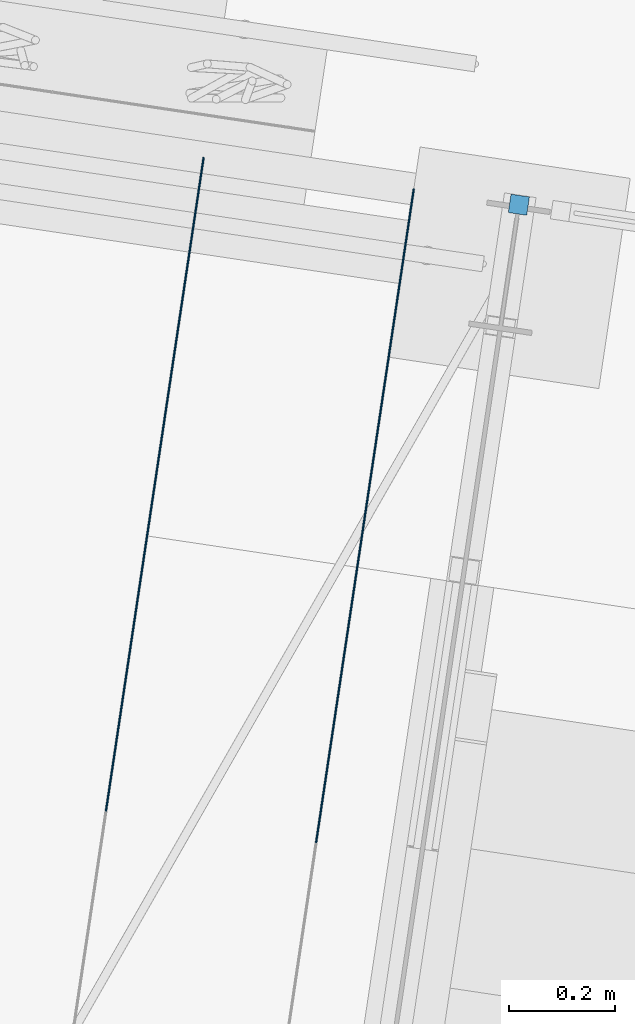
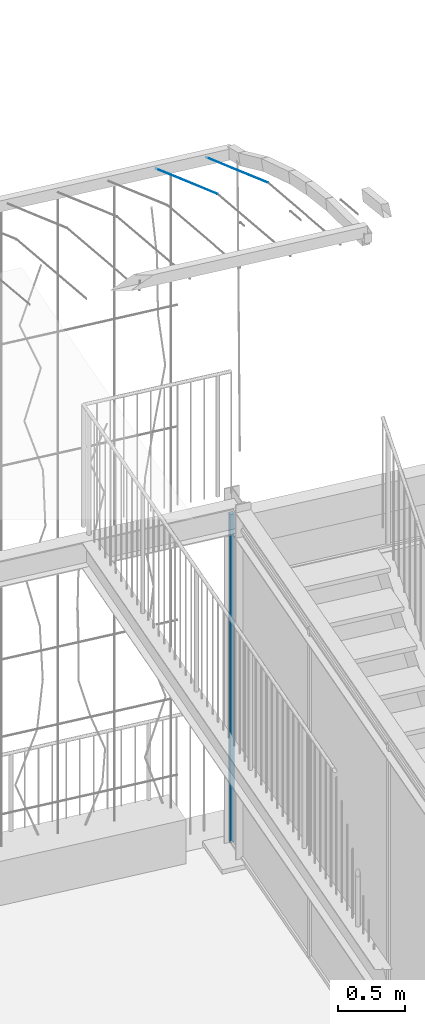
# One storey, part 43 of 142: 3 members, 1 element without a shape of its own.
"""IFC4 building model written with IfcOpenShell, lengths in metres."""

from ifc_helpers import new_model, si_unit, direction, frame, origin_with_axes, place, context, subcontext, project, spatial, rectangle, circle, extrude, material, material_profile, profile_set, profile_usage, type_object, element, aggregate, save


model = new_model("IFC4")

# Units and contexts
model_context = context("Model", 3, precision=1e-05, world=origin_with_axes(), true_north=direction((0.0, 1.0)))
body_context = subcontext(model_context, "Body", "Model", "MODEL_VIEW")
ifc_project = project(units=[si_unit("VOLUMEUNIT", "CUBIC_METRE"), si_unit("LENGTHUNIT", "METRE"), si_unit("AREAUNIT", "SQUARE_METRE")], contexts=[model_context])

# Site, building, storey
site_placement = place(None, origin_with_axes())
site = spatial("IfcSite", under=ifc_project, at=site_placement, Name="Lares · Rua das Mercês · artigo 4771")
building_placement = place(site_placement, frame((12.0, 10.2, 13.9), z_axis=(0.0, 0.0, 1.0), x_axis=(0.989015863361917, -0.147809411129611, 0.0)))
building = spatial("IfcBuilding", under=site, at=building_placement, Name="Casa Sobreposta")
storey_placement = place(building_placement, origin_with_axes())
storey = spatial("IfcBuildingStorey", under=building, at=storey_placement, Name="00 · Habitação e estacionamento", Elevation=13.9)

# Member
ifc_material_1 = material(Name="Aço pintado / Stahl lackiert", Category="steel")
ifc_material_profile_1 = material_profile(ifc_material_1, rectangle(XDim=0.035, YDim=0.035))
ifc_profile_set_1 = profile_set([ifc_material_profile_1], Name="R0.035")
ifc_profile_usage_1 = profile_usage(ifc_profile_set_1)
member_type_1 = type_object("IfcMemberType", Name="R0.035 / steel", PredefinedType="NOTDEFINED", material=ifc_profile_set_1)
member_1_placement = place(storey_placement, frame((0.0, 6.4, 0.0), z_axis=(0.0, 0.0, 1.0), x_axis=(1.0, 0.0, 0.0)))
element("IfcMember", 1, at=member_1_placement, inside=storey, type_object=member_type_1, material=ifc_profile_usage_1, Name="Fachada poente integralmente envidraçada · módulo 4 · montante", context=body_context, shape_type="SweptSolid", body=[
    extrude(rectangle(XDim=0.035, YDim=0.035), origin_with_axes(), (0.0, 0.0, 1.0), 2.968),
])

# Assembly, members
assembly_placement = place(storey_placement, origin_with_axes())
assembly = element("IfcElementAssembly", 2, at=assembly_placement, inside=storey, Name="Pérgola · prolongamento da estufa 6 m", ObjectType="PERGOLA_GREENHOUSE_EXTENSION", PredefinedType="USERDEFINED")
ifc_material_2 = material(Name="Aço galvanizado / Stahl verzinkt", Category="steel")
ifc_material_profile_2 = material_profile(ifc_material_2, circle(Radius=0.002))
ifc_profile_set_2 = profile_set([ifc_material_profile_2], Name="D0.004")
ifc_profile_usage_2 = profile_usage(ifc_profile_set_2)
member_type_2 = type_object("IfcMemberType", Name="D0.004 / galvanized", PredefinedType="NOTDEFINED", material=ifc_profile_set_2)
member_2_placement = place(assembly_placement, frame((-0.599999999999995, 5.15650506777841, 6.8157371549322), z_axis=(0.0, 0.905864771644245, -0.423567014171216), x_axis=(1.0, 0.0, 0.0)))
member_2 = element("IfcMember", 3, at=member_2_placement, type_object=member_type_2, material=ifc_profile_usage_2, Name="Pérgola · fio para trepadeiras", context=body_context, shape_type="SweptSolid", body=[
    extrude(circle(Radius=0.002), origin_with_axes(), (0.0, 0.0, 1.0), 1.3727158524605),
])
ifc_profile_usage_3 = profile_usage(ifc_profile_set_2)
member_3_placement = place(assembly_placement, frame((-0.199999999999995, 5.15650506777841, 6.8157371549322), z_axis=(0.0, 0.905864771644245, -0.423567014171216), x_axis=(1.0, 0.0, 0.0)))
member_3 = element("IfcMember", 4, at=member_3_placement, type_object=member_type_2, material=ifc_profile_usage_3, Name="Pérgola · fio para trepadeiras", context=body_context, shape_type="SweptSolid", body=[
    extrude(circle(Radius=0.002), origin_with_axes(), (0.0, 0.0, 1.0), 1.3727158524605),
])
aggregate(assembly, [member_2, member_3])

save(model, "model.ifc")
